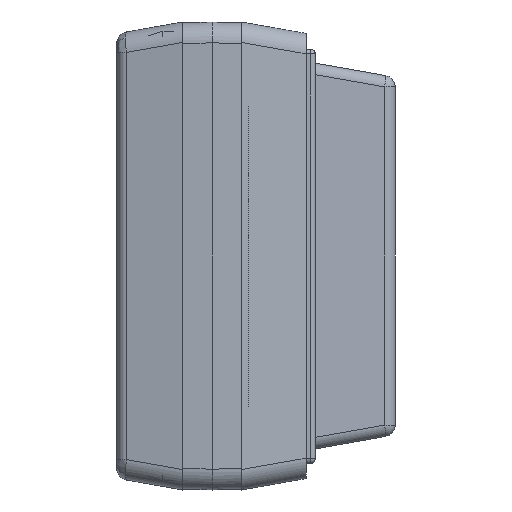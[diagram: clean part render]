
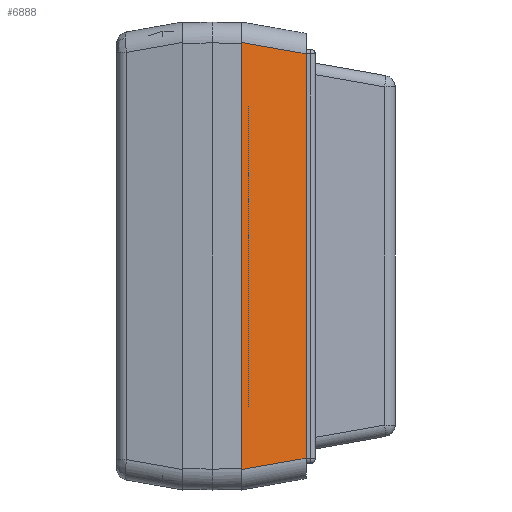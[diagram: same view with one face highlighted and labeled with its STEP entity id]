
A CAD part, left-side view. The second image highlights one B-rep face of the part: STEP entity #6888.
In plain terms, the highlighted planar face has unit normal (-0.985, -0.174, 0).
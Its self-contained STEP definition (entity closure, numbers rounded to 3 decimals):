
#280 = VERTEX_POINT ( 'NONE', #15690 ) ;
#1726 = CARTESIAN_POINT ( 'NONE',  ( -95.3, 0., 50.7 ) ) ;
#1856 = CARTESIAN_POINT ( 'NONE',  ( -95.3, 0., 50.7 ) ) ;
#2334 = FACE_OUTER_BOUND ( 'NONE', #10256, .T. ) ;
#2782 = VERTEX_POINT ( 'NONE', #14465 ) ;
#3104 = DIRECTION ( 'NONE',  ( 0.171, -0.97, 0.171 ) ) ;
#3224 = DIRECTION ( 'NONE',  ( 0., 0., 1. ) ) ;
#3292 = PLANE ( 'NONE',  #4257 ) ;
#3818 = CARTESIAN_POINT ( 'NONE',  ( -95.3, 0., -46.268 ) ) ;
#4257 = AXIS2_PLACEMENT_3D ( 'NONE', #1856, #15360, #6308 ) ;
#4725 = CARTESIAN_POINT ( 'NONE',  ( -95.43, 0.736, 46.398 ) ) ;
#5985 = CARTESIAN_POINT ( 'NONE',  ( -92.462, -16.097, -43.43 ) ) ;
#6220 = DIRECTION ( 'NONE',  ( -0.171, 0.97, 0.171 ) ) ;
#6308 = DIRECTION ( 'NONE',  ( 0.174, -0.985, 0. ) ) ;
#6462 = VECTOR ( 'NONE', #13609, 1000. ) ;
#6622 = VECTOR ( 'NONE', #6220, 1000. ) ;
#6888 = ADVANCED_FACE ( 'NONE', ( #2334 ), #3292, .T. ) ;
#7410 = ORIENTED_EDGE ( 'NONE', *, *, #17020, .T. ) ;
#7738 = CARTESIAN_POINT ( 'NONE',  ( -95.3, 0., 46.268 ) ) ;
#8229 = VECTOR ( 'NONE', #3224, 1000. ) ;
#8713 = LINE ( 'NONE', #1726, #8229 ) ;
#9110 = EDGE_CURVE ( 'NONE', #280, #9121, #18655, .T. ) ;
#9121 = VERTEX_POINT ( 'NONE', #7738 ) ;
#9525 = ORIENTED_EDGE ( 'NONE', *, *, #17077, .F. ) ;
#10256 = EDGE_LOOP ( 'NONE', ( #9525, #7410, #17041, #13512 ) ) ;
#12659 = VERTEX_POINT ( 'NONE', #3818 ) ;
#13212 = VECTOR ( 'NONE', #3104, 1000. ) ;
#13512 = ORIENTED_EDGE ( 'NONE', *, *, #9110, .T. ) ;
#13609 = DIRECTION ( 'NONE',  ( 0., 0., 1. ) ) ;
#13673 = CARTESIAN_POINT ( 'NONE',  ( -92.831, -14., 50.7 ) ) ;
#14387 = EDGE_CURVE ( 'NONE', #2782, #280, #18498, .T. ) ;
#14465 = CARTESIAN_POINT ( 'NONE',  ( -92.831, -14., -43.8 ) ) ;
#15360 = DIRECTION ( 'NONE',  ( -0.985, -0.174, 0. ) ) ;
#15690 = CARTESIAN_POINT ( 'NONE',  ( -92.831, -14., 43.8 ) ) ;
#17020 = EDGE_CURVE ( 'NONE', #12659, #2782, #17209, .T. ) ;
#17041 = ORIENTED_EDGE ( 'NONE', *, *, #14387, .T. ) ;
#17077 = EDGE_CURVE ( 'NONE', #12659, #9121, #8713, .T. ) ;
#17209 = LINE ( 'NONE', #5985, #13212 ) ;
#18498 = LINE ( 'NONE', #13673, #6462 ) ;
#18655 = LINE ( 'NONE', #4725, #6622 ) ;
